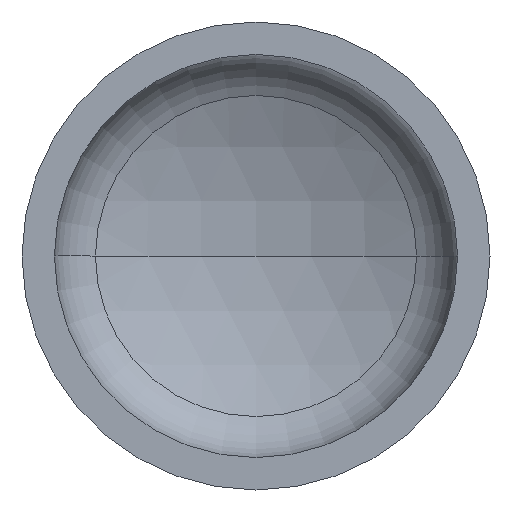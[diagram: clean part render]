
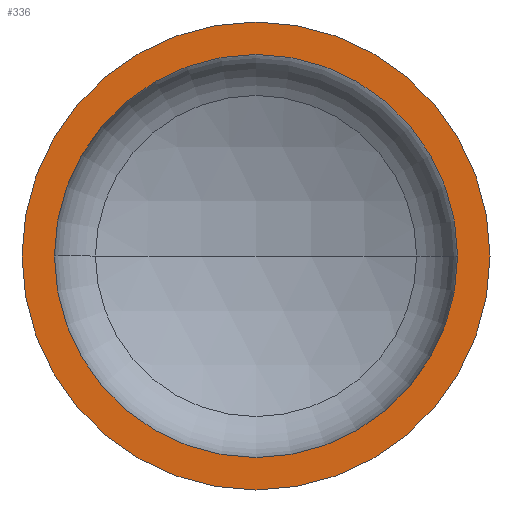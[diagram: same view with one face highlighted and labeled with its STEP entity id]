
A CAD part, front view. The second image highlights one B-rep face of the part: STEP entity #336.
In plain terms, the highlighted planar face has unit normal (0, -1, 0).
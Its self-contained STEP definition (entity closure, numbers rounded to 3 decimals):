
#1 = CIRCLE ( 'NONE', #17, 646. ) ;
#3 = AXIS2_PLACEMENT_3D ( 'NONE', #291, #225, #264 ) ;
#17 = AXIS2_PLACEMENT_3D ( 'NONE', #379, #245, #406 ) ;
#21 = CARTESIAN_POINT ( 'NONE',  ( 646., 0., 0. ) ) ;
#22 = VERTEX_POINT ( 'NONE', #300 ) ;
#27 = VERTEX_POINT ( 'NONE', #21 ) ;
#29 = ORIENTED_EDGE ( 'NONE', *, *, #335, .F. ) ;
#48 = AXIS2_PLACEMENT_3D ( 'NONE', #306, #354, #184 ) ;
#51 = AXIS2_PLACEMENT_3D ( 'NONE', #229, #226, #208 ) ;
#60 = EDGE_CURVE ( 'NONE', #109, #123, #333, .T. ) ;
#62 = EDGE_CURVE ( 'NONE', #27, #22, #272, .T. ) ;
#86 = ORIENTED_EDGE ( 'NONE', *, *, #62, .F. ) ;
#105 = EDGE_LOOP ( 'NONE', ( #86, #29 ) ) ;
#108 = EDGE_LOOP ( 'NONE', ( #223, #129 ) ) ;
#109 = VERTEX_POINT ( 'NONE', #178 ) ;
#123 = VERTEX_POINT ( 'NONE', #168 ) ;
#129 = ORIENTED_EDGE ( 'NONE', *, *, #60, .T. ) ;
#139 = DIRECTION ( 'NONE',  ( 0., -1., 0. ) ) ;
#153 = FACE_OUTER_BOUND ( 'NONE', #108, .T. ) ;
#165 = AXIS2_PLACEMENT_3D ( 'NONE', #293, #139, #319 ) ;
#168 = CARTESIAN_POINT ( 'NONE',  ( 750., 0., 0. ) ) ;
#178 = CARTESIAN_POINT ( 'NONE',  ( -750., 0., 0. ) ) ;
#184 = DIRECTION ( 'NONE',  ( 1., 0., 0. ) ) ;
#208 = DIRECTION ( 'NONE',  ( 1., 0., 0. ) ) ;
#223 = ORIENTED_EDGE ( 'NONE', *, *, #372, .T. ) ;
#225 = DIRECTION ( 'NONE',  ( 0., 1., 0. ) ) ;
#226 = DIRECTION ( 'NONE',  ( 0., -1., 0. ) ) ;
#229 = CARTESIAN_POINT ( 'NONE',  ( 0., 0., 0. ) ) ;
#245 = DIRECTION ( 'NONE',  ( 0., -1., 0. ) ) ;
#264 = DIRECTION ( 'NONE',  ( -1., 0., 0. ) ) ;
#272 = CIRCLE ( 'NONE', #48, 646. ) ;
#274 = CIRCLE ( 'NONE', #165, 750. ) ;
#291 = CARTESIAN_POINT ( 'NONE',  ( -750., 0., 0. ) ) ;
#293 = CARTESIAN_POINT ( 'NONE',  ( 0., 0., 0. ) ) ;
#300 = CARTESIAN_POINT ( 'NONE',  ( -646., 0., 0. ) ) ;
#306 = CARTESIAN_POINT ( 'NONE',  ( 0., 0., 0. ) ) ;
#319 = DIRECTION ( 'NONE',  ( 1., 0., 0. ) ) ;
#333 = CIRCLE ( 'NONE', #51, 750. ) ;
#335 = EDGE_CURVE ( 'NONE', #22, #27, #1, .T. ) ;
#336 = ADVANCED_FACE ( 'NONE', ( #410, #153 ), #355, .F. ) ;
#354 = DIRECTION ( 'NONE',  ( 0., -1., 0. ) ) ;
#355 = PLANE ( 'NONE',  #3 ) ;
#372 = EDGE_CURVE ( 'NONE', #123, #109, #274, .T. ) ;
#379 = CARTESIAN_POINT ( 'NONE',  ( 0., 0., 0. ) ) ;
#406 = DIRECTION ( 'NONE',  ( 1., 0., 0. ) ) ;
#410 = FACE_BOUND ( 'NONE', #105, .T. ) ;
